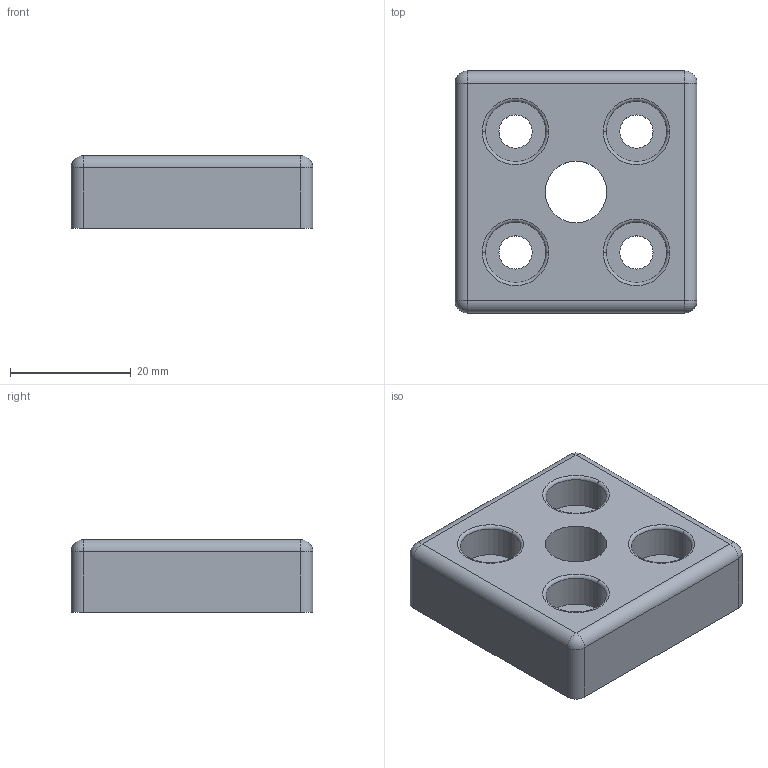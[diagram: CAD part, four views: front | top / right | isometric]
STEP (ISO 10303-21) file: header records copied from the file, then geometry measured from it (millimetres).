
FILE_DESCRIPTION(('STEP AP242'),'1');
FILE_NAME('fath_093t40401205s.stp','2021-03-30T08:07:29',('TraceParts'),('TraceParts S.A.'),'Spatial InterOp 3D',' ',' ');
FILE_SCHEMA(('AP242_MANAGED_MODEL_BASED_3D_ENGINEERING_MIM_LF {1 0 10303 442 1 1 4}'));
Length unit declared in the file: millimetre
Products named in the file (1): fath_093t40401205s
Bounding box: 40 x 40 x 12 mm (x, y, z)
Volume: 12063.3 mm3; surface area: 8187.6 mm2
Topology: 1 solids, 1 shells, 166 faces, 394 edges, 222 vertices
Faces by surface type: cylinder 84, torus 34, sphere 26, plane 22
Entity records: 4723 total; most frequent: DIRECTION 974, CARTESIAN_POINT 763, ORIENTED_EDGE 748, AXIS2_PLACEMENT_3D 433, EDGE_CURVE 374, CIRCLE 266, VERTEX_POINT 222, EDGE_LOOP 188
